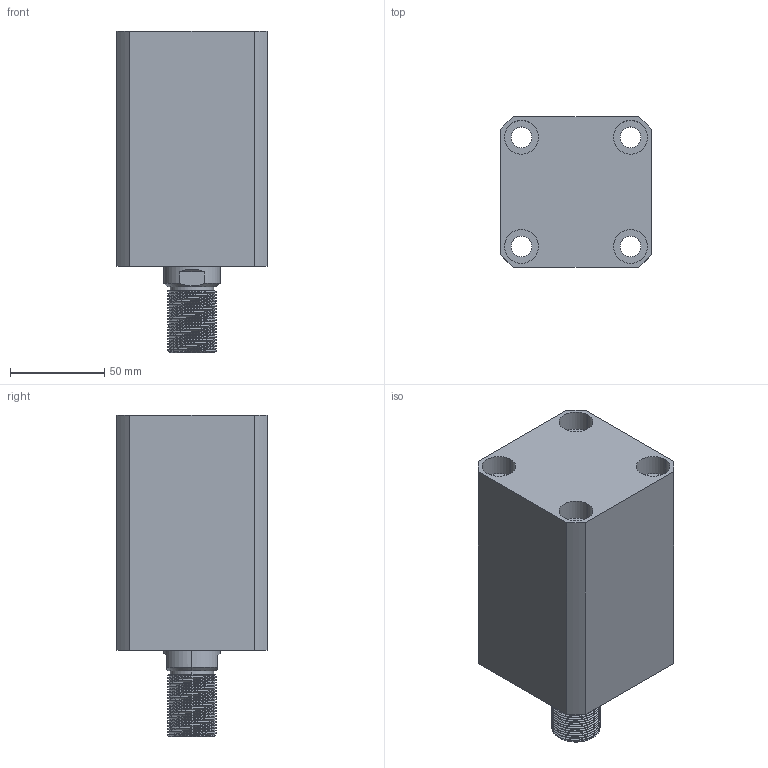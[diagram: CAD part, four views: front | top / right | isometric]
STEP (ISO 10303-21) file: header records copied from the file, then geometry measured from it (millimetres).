
FILE_DESCRIPTION (( 'STEP AP203' ), '1' );
FILE_NAME ('CHTB-SD50-65W.STEP', '2018-05-19T00:12:27', ( '' ), ( '' ), 'SwSTEP 2.0', 'SolidWorks 2015', '' );
FILE_SCHEMA (( 'CONFIG_CONTROL_DESIGN' ));
Length unit declared in the file: millimetre
Products named in the file (4): 活塞杆SD50-65W; CHTM-SD50QG; 掛极SD50-65W; CHTB-SD50-65W
Assembly tree (3 placements, depth 2):
  CHTB-SD50-65W
    掛极SD50-65W
    活塞杆SD50-65W
    CHTM-SD50QG
Bounding box: 80 x 80 x 171 mm (x, y, z)
Volume: 663830.4 mm3; surface area: 126773.9 mm2
Topology: 3 solids, 3 shells, 236 faces, 627 edges, 419 vertices
Faces by surface type: cylinder 144, plane 41, cone 19, bspline 16, torus 16
Entity records: 14613 total; most frequent: CARTESIAN_POINT 8784, ORIENTED_EDGE 1246, DIRECTION 1029, EDGE_CURVE 623, AXIS2_PLACEMENT_3D 422, VERTEX_POINT 419, EDGE_LOOP 276, FACE_OUTER_BOUND 236
